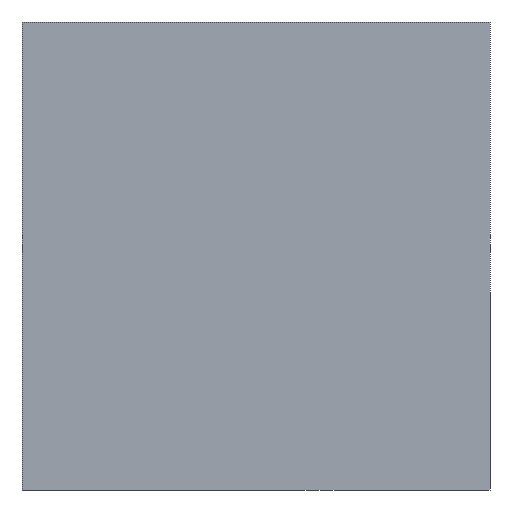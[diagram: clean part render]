
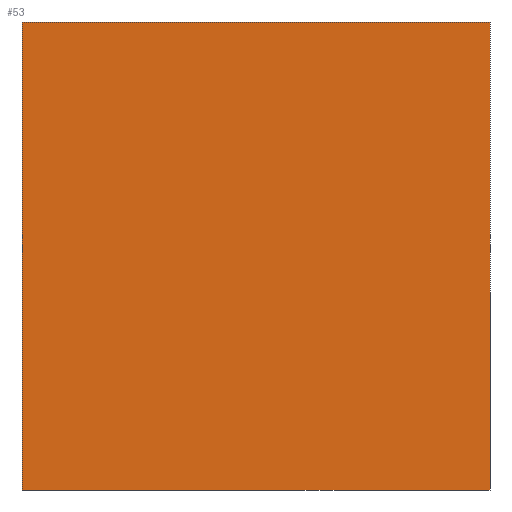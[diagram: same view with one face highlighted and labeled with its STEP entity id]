
A CAD part, front view. The second image highlights one B-rep face of the part: STEP entity #53.
In plain terms, the highlighted planar face has unit normal (0, -1, 0).
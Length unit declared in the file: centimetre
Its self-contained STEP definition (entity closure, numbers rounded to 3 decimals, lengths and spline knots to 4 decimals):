
#19 = DIRECTION ( 'NONE',  ( 1., 0., 0. ) ) ;
#27 = EDGE_CURVE ( 'NONE', #197, #37, #291, .T. ) ;
#33 = CARTESIAN_POINT ( 'NONE',  ( 0., 0., 1000. ) ) ;
#37 = VERTEX_POINT ( 'NONE', #447 ) ;
#53 = ADVANCED_FACE ( 'NONE', ( #555 ), #394, .F. ) ;
#72 = ORIENTED_EDGE ( 'NONE', *, *, #597, .F. ) ;
#73 = EDGE_LOOP ( 'NONE', ( #618, #260, #72, #538 ) ) ;
#88 = CARTESIAN_POINT ( 'NONE',  ( 1000., 0., 1000. ) ) ;
#94 = CARTESIAN_POINT ( 'NONE',  ( 0., 0., 1000. ) ) ;
#97 = LINE ( 'NONE', #631, #586 ) ;
#112 = VECTOR ( 'NONE', #19, 100. ) ;
#127 = CARTESIAN_POINT ( 'NONE',  ( 0., 0., 0. ) ) ;
#151 = DIRECTION ( 'NONE',  ( 0., 0., -1. ) ) ;
#197 = VERTEX_POINT ( 'NONE', #256 ) ;
#238 = EDGE_CURVE ( 'NONE', #339, #197, #97, .T. ) ;
#256 = CARTESIAN_POINT ( 'NONE',  ( 0., 0., 0. ) ) ;
#260 = ORIENTED_EDGE ( 'NONE', *, *, #679, .F. ) ;
#291 = LINE ( 'NONE', #127, #112 ) ;
#328 = AXIS2_PLACEMENT_3D ( 'NONE', #616, #619, #660 ) ;
#339 = VERTEX_POINT ( 'NONE', #33 ) ;
#394 = PLANE ( 'NONE',  #328 ) ;
#447 = CARTESIAN_POINT ( 'NONE',  ( 1000., 0., 0. ) ) ;
#474 = CARTESIAN_POINT ( 'NONE',  ( 1000., 0., 1000. ) ) ;
#482 = VECTOR ( 'NONE', #151, 100. ) ;
#517 = DIRECTION ( 'NONE',  ( 0., 0., -1. ) ) ;
#538 = ORIENTED_EDGE ( 'NONE', *, *, #238, .T. ) ;
#541 = DIRECTION ( 'NONE',  ( 1., 0., 0. ) ) ;
#555 = FACE_OUTER_BOUND ( 'NONE', #73, .T. ) ;
#586 = VECTOR ( 'NONE', #517, 100. ) ;
#591 = LINE ( 'NONE', #94, #617 ) ;
#596 = VERTEX_POINT ( 'NONE', #474 ) ;
#597 = EDGE_CURVE ( 'NONE', #339, #596, #591, .T. ) ;
#616 = CARTESIAN_POINT ( 'NONE',  ( 0., 0., 1000. ) ) ;
#617 = VECTOR ( 'NONE', #541, 100. ) ;
#618 = ORIENTED_EDGE ( 'NONE', *, *, #27, .T. ) ;
#619 = DIRECTION ( 'NONE',  ( 0., 1., 0. ) ) ;
#631 = CARTESIAN_POINT ( 'NONE',  ( 0., 0., 1000. ) ) ;
#660 = DIRECTION ( 'NONE',  ( 0., 0., 1. ) ) ;
#679 = EDGE_CURVE ( 'NONE', #596, #37, #684, .T. ) ;
#684 = LINE ( 'NONE', #88, #482 ) ;
